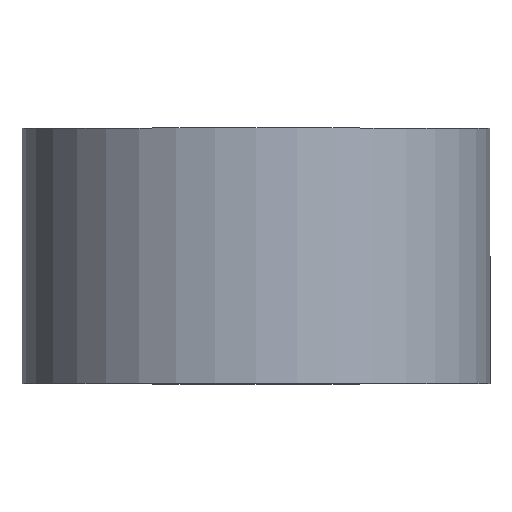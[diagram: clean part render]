
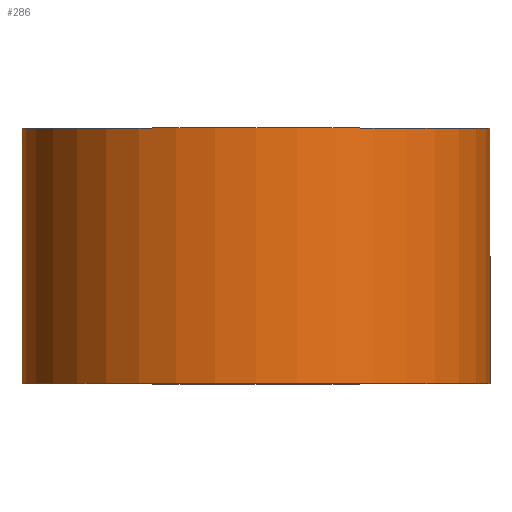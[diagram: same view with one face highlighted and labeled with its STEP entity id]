
A CAD part, top view. The second image highlights one B-rep face of the part: STEP entity #286.
In plain terms, the highlighted cylindrical face has radius 27.5 mm (diameter 55 mm), a partial arc.
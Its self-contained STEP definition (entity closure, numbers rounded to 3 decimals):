
#17 = EDGE_CURVE ( 'NONE', #257, #83, #123, .T. ) ;
#20 = CARTESIAN_POINT ( 'NONE',  ( 27.5, 30., 0. ) ) ;
#21 = AXIS2_PLACEMENT_3D ( 'NONE', #45, #87, #46 ) ;
#23 = VERTEX_POINT ( 'NONE', #105 ) ;
#26 = CARTESIAN_POINT ( 'NONE',  ( -27.5, 0., 0. ) ) ;
#36 = DIRECTION ( 'NONE',  ( -1., 0., 0. ) ) ;
#39 = EDGE_LOOP ( 'NONE', ( #284, #230, #272, #192 ) ) ;
#45 = CARTESIAN_POINT ( 'NONE',  ( 0., 30., 0. ) ) ;
#46 = DIRECTION ( 'NONE',  ( -1., 0., 0. ) ) ;
#49 = DIRECTION ( 'NONE',  ( 0., 1., 0. ) ) ;
#61 = VECTOR ( 'NONE', #49, 1000. ) ;
#64 = CARTESIAN_POINT ( 'NONE',  ( -27.5, 0., 0. ) ) ;
#65 = EDGE_CURVE ( 'NONE', #76, #257, #282, .T. ) ;
#66 = LINE ( 'NONE', #73, #61 ) ;
#73 = CARTESIAN_POINT ( 'NONE',  ( 27.5, 0., 0. ) ) ;
#76 = VERTEX_POINT ( 'NONE', #26 ) ;
#77 = DIRECTION ( 'NONE',  ( 0., 1., 0. ) ) ;
#83 = VERTEX_POINT ( 'NONE', #20 ) ;
#86 = AXIS2_PLACEMENT_3D ( 'NONE', #142, #77, #36 ) ;
#87 = DIRECTION ( 'NONE',  ( 0., 1., 0. ) ) ;
#105 = CARTESIAN_POINT ( 'NONE',  ( 27.5, 0., 0. ) ) ;
#114 = CARTESIAN_POINT ( 'NONE',  ( 0., 0., 0. ) ) ;
#123 = CIRCLE ( 'NONE', #21, 27.5 ) ;
#129 = VECTOR ( 'NONE', #246, 1000. ) ;
#142 = CARTESIAN_POINT ( 'NONE',  ( 0., 0., 0. ) ) ;
#152 = CYLINDRICAL_SURFACE ( 'NONE', #86, 27.5 ) ;
#154 = AXIS2_PLACEMENT_3D ( 'NONE', #114, #226, #276 ) ;
#168 = FACE_OUTER_BOUND ( 'NONE', #39, .T. ) ;
#192 = ORIENTED_EDGE ( 'NONE', *, *, #65, .F. ) ;
#211 = EDGE_CURVE ( 'NONE', #23, #83, #66, .T. ) ;
#226 = DIRECTION ( 'NONE',  ( 0., 1., 0. ) ) ;
#230 = ORIENTED_EDGE ( 'NONE', *, *, #211, .T. ) ;
#235 = EDGE_CURVE ( 'NONE', #76, #23, #290, .T. ) ;
#246 = DIRECTION ( 'NONE',  ( 0., 1., 0. ) ) ;
#257 = VERTEX_POINT ( 'NONE', #278 ) ;
#272 = ORIENTED_EDGE ( 'NONE', *, *, #17, .F. ) ;
#276 = DIRECTION ( 'NONE',  ( -1., 0., 0. ) ) ;
#278 = CARTESIAN_POINT ( 'NONE',  ( -27.5, 30., 0. ) ) ;
#282 = LINE ( 'NONE', #64, #129 ) ;
#284 = ORIENTED_EDGE ( 'NONE', *, *, #235, .T. ) ;
#286 = ADVANCED_FACE ( 'NONE', ( #168 ), #152, .T. ) ;
#290 = CIRCLE ( 'NONE', #154, 27.5 ) ;
